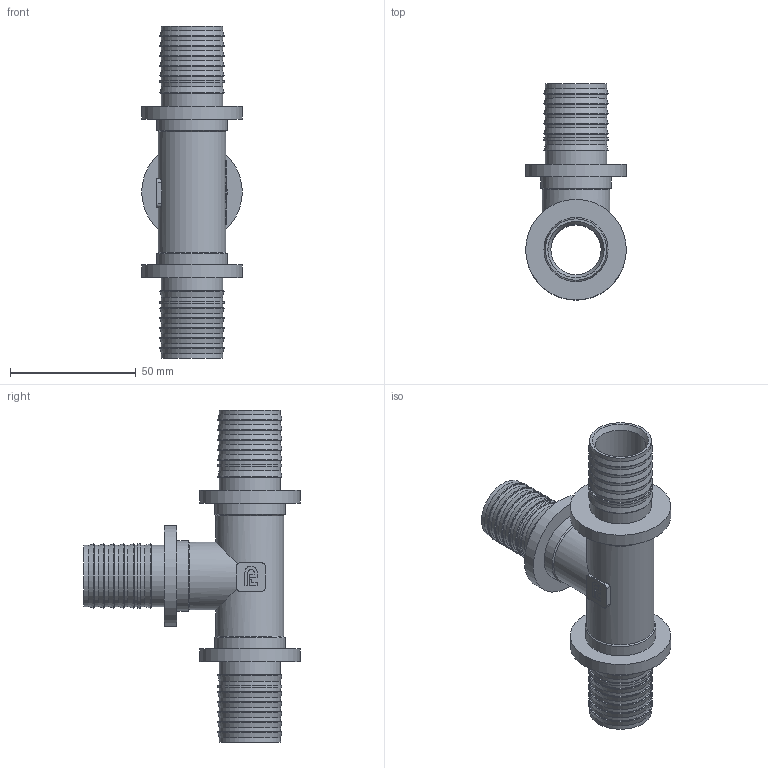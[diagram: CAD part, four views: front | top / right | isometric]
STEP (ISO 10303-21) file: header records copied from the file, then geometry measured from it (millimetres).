
FILE_DESCRIPTION(/* description */ (''),/* implementation_level */ '2;1');
FILE_NAME(/* name */ 'C:\Users\Doom\Desktop\Фадотех\Натяжка\SFT04_NEW 32 29.05.2020\SFT04_NEW 32 29.05.2020.stp',/* time_stamp */ '2022-07-25T18:52:58+03:00',/* author */ ('Doom'),/* organization */ (''),/* preprocessor_version */ 'ST-DEVELOPER v18',/* originating_system */ 'Autodesk Inventor 2020',/* authorisation */ '');
FILE_SCHEMA (('AUTOMOTIVE_DESIGN { 1 0 10303 214 3 1 1 }'));
Length unit declared in the file: millimetre
Products named in the file (1): SFT04_NEW 32 29.05.2020
Bounding box: 40 x 86 x 132 mm (x, y, z)
Volume: 49062 mm3; surface area: 32686.7 mm2
Topology: 1 solids, 1 shells, 305 faces, 873 edges, 609 vertices
Faces by surface type: bspline 122, plane 96, cylinder 45, cone 24, torus 18
Full cylindrical faces by diameter (mm): 20 x2, 24.38 x6, 24.4 x18, 25.5 x3, 27 x2, 28 x3, 40 x3
Entity records: 12988 total; most frequent: CARTESIAN_POINT 5423, ORIENTED_EDGE 1746, DIRECTION 1297, EDGE_CURVE 873, VERTEX_POINT 609, AXIS2_PLACEMENT_3D 489, EDGE_LOOP 348, LINE 319
